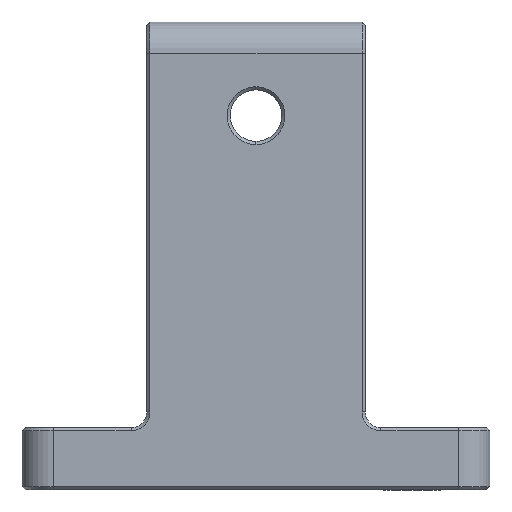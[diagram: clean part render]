
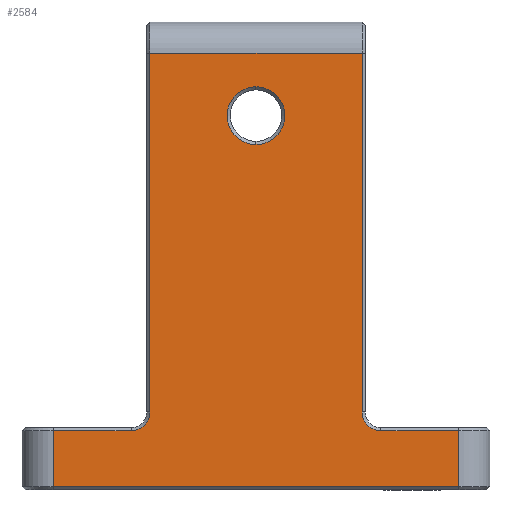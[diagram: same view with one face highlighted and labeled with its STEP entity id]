
A CAD part, front view. The second image highlights one B-rep face of the part: STEP entity #2584.
In plain terms, the highlighted planar face has unit normal (0, -1, 0).
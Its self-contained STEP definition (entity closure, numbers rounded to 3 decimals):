
#14 = EDGE_CURVE ( 'NONE', #1368, #1403, #74, .T. ) ;
#28 = DIRECTION ( 'NONE',  ( 0., 0., -1. ) ) ;
#32 = DIRECTION ( 'NONE',  ( 0., 0., 1. ) ) ;
#36 = DIRECTION ( 'NONE',  ( -1., 0., 0. ) ) ;
#74 = LINE ( 'NONE', #1765, #1200 ) ;
#111 = CARTESIAN_POINT ( 'NONE',  ( 38.646, 21.216, 13. ) ) ;
#115 = ORIENTED_EDGE ( 'NONE', *, *, #2080, .T. ) ;
#203 = EDGE_CURVE ( 'NONE', #1382, #2599, #2669, .T. ) ;
#211 = CARTESIAN_POINT ( 'NONE',  ( 23.846, 21.216, -11.2 ) ) ;
#213 = ORIENTED_EDGE ( 'NONE', *, *, #1869, .T. ) ;
#221 = CARTESIAN_POINT ( 'NONE',  ( 38.646, 21.216, -10. ) ) ;
#228 = DIRECTION ( 'NONE',  ( 0., 0., -1. ) ) ;
#261 = CARTESIAN_POINT ( 'NONE',  ( 25.046, 21.216, -10. ) ) ;
#270 = CIRCLE ( 'NONE', #2486, 1.2 ) ;
#272 = VECTOR ( 'NONE', #32, 1000. ) ;
#296 = CARTESIAN_POINT ( 'NONE',  ( 31.846, 21.216, 7.15 ) ) ;
#330 = DIRECTION ( 'NONE',  ( 0., 0., -1. ) ) ;
#332 = EDGE_CURVE ( 'NONE', #2044, #1403, #2170, .T. ) ;
#367 = FACE_OUTER_BOUND ( 'NONE', #1751, .T. ) ;
#372 = PLANE ( 'NONE',  #1287 ) ;
#401 = VECTOR ( 'NONE', #2224, 1000. ) ;
#406 = CARTESIAN_POINT ( 'NONE',  ( 18.846, 21.216, -11.2 ) ) ;
#443 = EDGE_CURVE ( 'NONE', #2398, #1922, #270, .T. ) ;
#451 = CARTESIAN_POINT ( 'NONE',  ( 31.846, 21.216, 9. ) ) ;
#589 = DIRECTION ( 'NONE',  ( 0., 0., -1. ) ) ;
#702 = EDGE_CURVE ( 'NONE', #934, #1945, #1970, .T. ) ;
#721 = ORIENTED_EDGE ( 'NONE', *, *, #443, .T. ) ;
#738 = CARTESIAN_POINT ( 'NONE',  ( 18.846, 21.216, -11. ) ) ;
#745 = AXIS2_PLACEMENT_3D ( 'NONE', #2461, #1626, #330 ) ;
#888 = CIRCLE ( 'NONE', #2143, 1.85 ) ;
#889 = DIRECTION ( 'NONE',  ( 0., 0., 1. ) ) ;
#934 = VERTEX_POINT ( 'NONE', #2297 ) ;
#964 = CIRCLE ( 'NONE', #2038, 1.85 ) ;
#1038 = ORIENTED_EDGE ( 'NONE', *, *, #332, .F. ) ;
#1104 = ORIENTED_EDGE ( 'NONE', *, *, #702, .T. ) ;
#1139 = CARTESIAN_POINT ( 'NONE',  ( 18.846, 21.216, -14.8 ) ) ;
#1200 = VECTOR ( 'NONE', #36, 1000. ) ;
#1205 = DIRECTION ( 'NONE',  ( 0., -1., 0. ) ) ;
#1211 = VERTEX_POINT ( 'NONE', #111 ) ;
#1223 = VECTOR ( 'NONE', #889, 1000. ) ;
#1287 = AXIS2_PLACEMENT_3D ( 'NONE', #2086, #1205, #589 ) ;
#1288 = LINE ( 'NONE', #2201, #1730 ) ;
#1322 = LINE ( 'NONE', #1768, #1223 ) ;
#1355 = LINE ( 'NONE', #2007, #2389 ) ;
#1368 = VERTEX_POINT ( 'NONE', #211 ) ;
#1382 = VERTEX_POINT ( 'NONE', #1728 ) ;
#1403 = VERTEX_POINT ( 'NONE', #406 ) ;
#1407 = EDGE_CURVE ( 'NONE', #1540, #1750, #964, .T. ) ;
#1420 = EDGE_CURVE ( 'NONE', #1750, #1540, #888, .T. ) ;
#1426 = CIRCLE ( 'NONE', #745, 1.2 ) ;
#1449 = CARTESIAN_POINT ( 'NONE',  ( 44.846, 21.216, -11.2 ) ) ;
#1499 = CARTESIAN_POINT ( 'NONE',  ( 31.846, 21.216, 10.85 ) ) ;
#1540 = VERTEX_POINT ( 'NONE', #296 ) ;
#1615 = DIRECTION ( 'NONE',  ( 1., 0., 0. ) ) ;
#1626 = DIRECTION ( 'NONE',  ( 0., 1., 0. ) ) ;
#1627 = LINE ( 'NONE', #2444, #401 ) ;
#1728 = CARTESIAN_POINT ( 'NONE',  ( 44.846, 21.216, -14.8 ) ) ;
#1730 = VECTOR ( 'NONE', #2618, 1000. ) ;
#1750 = VERTEX_POINT ( 'NONE', #1499 ) ;
#1751 = EDGE_LOOP ( 'NONE', ( #2280, #1915, #1038, #2379, #2249, #2745, #721, #213, #115, #1104 ) ) ;
#1755 = CARTESIAN_POINT ( 'NONE',  ( 31.846, 21.216, 9. ) ) ;
#1765 = CARTESIAN_POINT ( 'NONE',  ( 18.846, 21.216, -11.2 ) ) ;
#1766 = DIRECTION ( 'NONE',  ( 0., 1., 0. ) ) ;
#1768 = CARTESIAN_POINT ( 'NONE',  ( 38.646, 21.216, 13. ) ) ;
#1866 = EDGE_CURVE ( 'NONE', #2599, #2398, #1288, .T. ) ;
#1869 = EDGE_CURVE ( 'NONE', #1922, #1211, #1322, .T. ) ;
#1897 = FACE_BOUND ( 'NONE', #2735, .T. ) ;
#1915 = ORIENTED_EDGE ( 'NONE', *, *, #14, .T. ) ;
#1922 = VERTEX_POINT ( 'NONE', #221 ) ;
#1945 = VERTEX_POINT ( 'NONE', #261 ) ;
#1965 = CARTESIAN_POINT ( 'NONE',  ( 39.846, 21.216, -10. ) ) ;
#1970 = LINE ( 'NONE', #2500, #2434 ) ;
#1989 = CARTESIAN_POINT ( 'NONE',  ( 39.846, 21.216, -11.2 ) ) ;
#2007 = CARTESIAN_POINT ( 'NONE',  ( 18.846, 21.216, -14.8 ) ) ;
#2038 = AXIS2_PLACEMENT_3D ( 'NONE', #451, #1766, #228 ) ;
#2044 = VERTEX_POINT ( 'NONE', #1139 ) ;
#2073 = EDGE_CURVE ( 'NONE', #2044, #1382, #1355, .T. ) ;
#2080 = EDGE_CURVE ( 'NONE', #1211, #934, #1627, .T. ) ;
#2086 = CARTESIAN_POINT ( 'NONE',  ( 18.846, 21.216, 13. ) ) ;
#2089 = DIRECTION ( 'NONE',  ( 0., 0., -1. ) ) ;
#2136 = VECTOR ( 'NONE', #2463, 1000. ) ;
#2141 = DIRECTION ( 'NONE',  ( 0., 0., -1. ) ) ;
#2143 = AXIS2_PLACEMENT_3D ( 'NONE', #1755, #2617, #28 ) ;
#2169 = EDGE_CURVE ( 'NONE', #1945, #1368, #1426, .T. ) ;
#2170 = LINE ( 'NONE', #738, #2136 ) ;
#2201 = CARTESIAN_POINT ( 'NONE',  ( 18.846, 21.216, -11.2 ) ) ;
#2224 = DIRECTION ( 'NONE',  ( -1., 0., 0. ) ) ;
#2249 = ORIENTED_EDGE ( 'NONE', *, *, #203, .T. ) ;
#2280 = ORIENTED_EDGE ( 'NONE', *, *, #2169, .T. ) ;
#2297 = CARTESIAN_POINT ( 'NONE',  ( 25.046, 21.216, 13. ) ) ;
#2379 = ORIENTED_EDGE ( 'NONE', *, *, #2073, .T. ) ;
#2389 = VECTOR ( 'NONE', #1615, 1000. ) ;
#2398 = VERTEX_POINT ( 'NONE', #1989 ) ;
#2434 = VECTOR ( 'NONE', #2089, 1000. ) ;
#2444 = CARTESIAN_POINT ( 'NONE',  ( 18.846, 21.216, 13. ) ) ;
#2461 = CARTESIAN_POINT ( 'NONE',  ( 23.846, 21.216, -10. ) ) ;
#2463 = DIRECTION ( 'NONE',  ( 0., 0., 1. ) ) ;
#2486 = AXIS2_PLACEMENT_3D ( 'NONE', #1965, #2785, #2141 ) ;
#2500 = CARTESIAN_POINT ( 'NONE',  ( 25.046, 21.216, 13. ) ) ;
#2531 = ORIENTED_EDGE ( 'NONE', *, *, #1407, .T. ) ;
#2584 = ADVANCED_FACE ( 'NONE', ( #367, #1897 ), #372, .T. ) ;
#2599 = VERTEX_POINT ( 'NONE', #1449 ) ;
#2612 = CARTESIAN_POINT ( 'NONE',  ( 44.846, 21.216, 13. ) ) ;
#2617 = DIRECTION ( 'NONE',  ( 0., 1., 0. ) ) ;
#2618 = DIRECTION ( 'NONE',  ( -1., 0., 0. ) ) ;
#2669 = LINE ( 'NONE', #2612, #272 ) ;
#2735 = EDGE_LOOP ( 'NONE', ( #2531, #2767 ) ) ;
#2745 = ORIENTED_EDGE ( 'NONE', *, *, #1866, .T. ) ;
#2767 = ORIENTED_EDGE ( 'NONE', *, *, #1420, .T. ) ;
#2785 = DIRECTION ( 'NONE',  ( 0., 1., 0. ) ) ;
